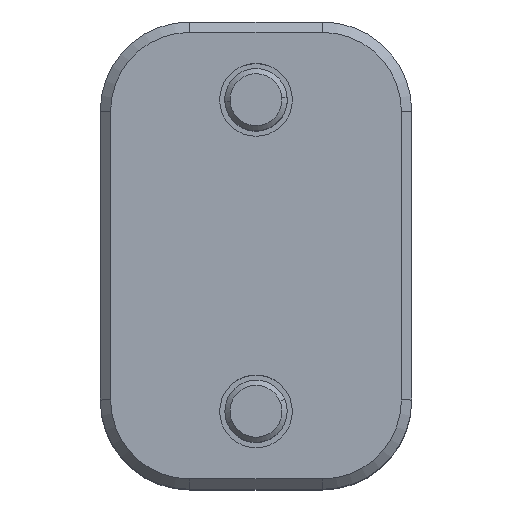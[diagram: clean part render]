
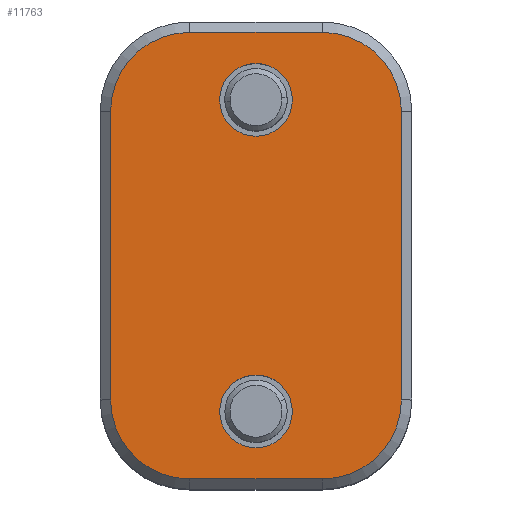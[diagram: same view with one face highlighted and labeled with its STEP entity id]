
A CAD part, top view. The second image highlights one B-rep face of the part: STEP entity #11763.
In plain terms, the highlighted planar face has unit normal (0, 0, 1).
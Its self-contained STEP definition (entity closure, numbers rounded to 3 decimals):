
#184 = EDGE_CURVE ( 'NONE', #11406, #1110, #423, .T. ) ;
#191 = VERTEX_POINT ( 'NONE', #8753 ) ;
#221 = CARTESIAN_POINT ( 'NONE',  ( 0., 18.5, 15. ) ) ;
#287 = DIRECTION ( 'NONE',  ( 0., 1., 0. ) ) ;
#336 = CARTESIAN_POINT ( 'NONE',  ( 6.4, 13.9, 15. ) ) ;
#361 = FACE_BOUND ( 'NONE', #7032, .T. ) ;
#423 = LINE ( 'NONE', #4733, #4992 ) ;
#627 = EDGE_CURVE ( 'NONE', #4389, #2264, #5620, .T. ) ;
#678 = VERTEX_POINT ( 'NONE', #7755 ) ;
#734 = VERTEX_POINT ( 'NONE', #5104 ) ;
#812 = CARTESIAN_POINT ( 'NONE',  ( 6.4, 21.5, 15. ) ) ;
#864 = VECTOR ( 'NONE', #6601, 1000. ) ;
#890 = VERTEX_POINT ( 'NONE', #3481 ) ;
#952 = CIRCLE ( 'NONE', #5401, 3.5 ) ;
#1110 = VERTEX_POINT ( 'NONE', #2953 ) ;
#1149 = ORIENTED_EDGE ( 'NONE', *, *, #3641, .T. ) ;
#1176 = CARTESIAN_POINT ( 'NONE',  ( 0., -15., 15. ) ) ;
#2170 = ORIENTED_EDGE ( 'NONE', *, *, #8442, .T. ) ;
#2196 = ORIENTED_EDGE ( 'NONE', *, *, #12401, .T. ) ;
#2264 = VERTEX_POINT ( 'NONE', #221 ) ;
#2446 = VECTOR ( 'NONE', #5033, 1000. ) ;
#2901 = AXIS2_PLACEMENT_3D ( 'NONE', #3314, #11008, #10881 ) ;
#2946 = FACE_OUTER_BOUND ( 'NONE', #12155, .T. ) ;
#2953 = CARTESIAN_POINT ( 'NONE',  ( 14., 13.9, 15. ) ) ;
#3018 = DIRECTION ( 'NONE',  ( 0., 0., 1. ) ) ;
#3064 = AXIS2_PLACEMENT_3D ( 'NONE', #8130, #10998, #4292 ) ;
#3150 = PLANE ( 'NONE',  #2901 ) ;
#3268 = ORIENTED_EDGE ( 'NONE', *, *, #10655, .T. ) ;
#3314 = CARTESIAN_POINT ( 'NONE',  ( 15., -22.5, 15. ) ) ;
#3360 = CARTESIAN_POINT ( 'NONE',  ( -6.4, 13.9, 15. ) ) ;
#3481 = CARTESIAN_POINT ( 'NONE',  ( -6.4, -21.5, 15. ) ) ;
#3641 = EDGE_CURVE ( 'NONE', #9734, #191, #952, .T. ) ;
#3654 = DIRECTION ( 'NONE',  ( 0., 1., 0. ) ) ;
#3718 = CARTESIAN_POINT ( 'NONE',  ( -14., -13.9, 15. ) ) ;
#3807 = LINE ( 'NONE', #6758, #2446 ) ;
#3865 = DIRECTION ( 'NONE',  ( 0., 1., 0. ) ) ;
#3881 = CARTESIAN_POINT ( 'NONE',  ( 0., 15., 15. ) ) ;
#3919 = DIRECTION ( 'NONE',  ( 0., 1., 0. ) ) ;
#3941 = DIRECTION ( 'NONE',  ( 0., 0., -1. ) ) ;
#3944 = CARTESIAN_POINT ( 'NONE',  ( 0., -18.5, 15. ) ) ;
#4048 = VECTOR ( 'NONE', #11218, 1000. ) ;
#4149 = AXIS2_PLACEMENT_3D ( 'NONE', #3360, #12113, #10175 ) ;
#4240 = CARTESIAN_POINT ( 'NONE',  ( 0., 11.5, 15. ) ) ;
#4292 = DIRECTION ( 'NONE',  ( -1., 0., 0. ) ) ;
#4389 = VERTEX_POINT ( 'NONE', #4240 ) ;
#4733 = CARTESIAN_POINT ( 'NONE',  ( 14., -22.5, 15. ) ) ;
#4889 = ORIENTED_EDGE ( 'NONE', *, *, #7156, .T. ) ;
#4947 = DIRECTION ( 'NONE',  ( 0., 0., -1. ) ) ;
#4957 = CARTESIAN_POINT ( 'NONE',  ( 6.4, -21.5, 15. ) ) ;
#4964 = AXIS2_PLACEMENT_3D ( 'NONE', #3881, #4947, #3919 ) ;
#4992 = VECTOR ( 'NONE', #3654, 1000. ) ;
#5020 = DIRECTION ( 'NONE',  ( 0., 1., 0. ) ) ;
#5033 = DIRECTION ( 'NONE',  ( -1., 0., 0. ) ) ;
#5104 = CARTESIAN_POINT ( 'NONE',  ( -6.4, 21.5, 15. ) ) ;
#5401 = AXIS2_PLACEMENT_3D ( 'NONE', #1176, #11896, #287 ) ;
#5620 = CIRCLE ( 'NONE', #10485, 3.5 ) ;
#5850 = CARTESIAN_POINT ( 'NONE',  ( 0., -15., 15. ) ) ;
#5858 = CIRCLE ( 'NONE', #11558, 7.6 ) ;
#5943 = CARTESIAN_POINT ( 'NONE',  ( -14., 13.9, 15. ) ) ;
#6025 = CARTESIAN_POINT ( 'NONE',  ( 6.4, -13.9, 15. ) ) ;
#6114 = ORIENTED_EDGE ( 'NONE', *, *, #627, .T. ) ;
#6208 = ORIENTED_EDGE ( 'NONE', *, *, #12267, .T. ) ;
#6218 = AXIS2_PLACEMENT_3D ( 'NONE', #6025, #3018, #6866 ) ;
#6252 = AXIS2_PLACEMENT_3D ( 'NONE', #5850, #3941, #3865 ) ;
#6298 = ORIENTED_EDGE ( 'NONE', *, *, #9471, .T. ) ;
#6352 = ORIENTED_EDGE ( 'NONE', *, *, #7096, .T. ) ;
#6601 = DIRECTION ( 'NONE',  ( 0., -1., 0. ) ) ;
#6758 = CARTESIAN_POINT ( 'NONE',  ( 15., 21.5, 15. ) ) ;
#6840 = CIRCLE ( 'NONE', #6218, 7.6 ) ;
#6866 = DIRECTION ( 'NONE',  ( -1., 0., 0. ) ) ;
#7032 = EDGE_LOOP ( 'NONE', ( #3268, #1149 ) ) ;
#7096 = EDGE_CURVE ( 'NONE', #8884, #734, #3807, .T. ) ;
#7156 = EDGE_CURVE ( 'NONE', #2264, #4389, #8681, .T. ) ;
#7733 = EDGE_LOOP ( 'NONE', ( #4889, #6114 ) ) ;
#7755 = CARTESIAN_POINT ( 'NONE',  ( -14., -13.9, 15. ) ) ;
#7920 = DIRECTION ( 'NONE',  ( 0., 0., -1. ) ) ;
#7962 = VERTEX_POINT ( 'NONE', #4957 ) ;
#8114 = ORIENTED_EDGE ( 'NONE', *, *, #9993, .T. ) ;
#8130 = CARTESIAN_POINT ( 'NONE',  ( -6.4, -13.9, 15. ) ) ;
#8353 = DIRECTION ( 'NONE',  ( -1., 0., 0. ) ) ;
#8442 = EDGE_CURVE ( 'NONE', #7962, #11406, #6840, .T. ) ;
#8638 = EDGE_CURVE ( 'NONE', #734, #10155, #9105, .T. ) ;
#8681 = CIRCLE ( 'NONE', #4964, 3.5 ) ;
#8753 = CARTESIAN_POINT ( 'NONE',  ( 0., -11.5, 15. ) ) ;
#8884 = VERTEX_POINT ( 'NONE', #812 ) ;
#9091 = LINE ( 'NONE', #3718, #864 ) ;
#9105 = CIRCLE ( 'NONE', #4149, 7.6 ) ;
#9290 = ORIENTED_EDGE ( 'NONE', *, *, #184, .T. ) ;
#9368 = DIRECTION ( 'NONE',  ( 0., 0., 1. ) ) ;
#9388 = CIRCLE ( 'NONE', #6252, 3.5 ) ;
#9399 = CARTESIAN_POINT ( 'NONE',  ( 15., -21.5, 15. ) ) ;
#9471 = EDGE_CURVE ( 'NONE', #10155, #678, #9091, .T. ) ;
#9734 = VERTEX_POINT ( 'NONE', #3944 ) ;
#9784 = CARTESIAN_POINT ( 'NONE',  ( 0., 15., 15. ) ) ;
#9940 = CIRCLE ( 'NONE', #3064, 7.6 ) ;
#9993 = EDGE_CURVE ( 'NONE', #890, #7962, #11807, .T. ) ;
#10155 = VERTEX_POINT ( 'NONE', #5943 ) ;
#10175 = DIRECTION ( 'NONE',  ( -1., 0., 0. ) ) ;
#10485 = AXIS2_PLACEMENT_3D ( 'NONE', #9784, #7920, #5020 ) ;
#10506 = ORIENTED_EDGE ( 'NONE', *, *, #8638, .T. ) ;
#10655 = EDGE_CURVE ( 'NONE', #191, #9734, #9388, .T. ) ;
#10844 = FACE_BOUND ( 'NONE', #7733, .T. ) ;
#10881 = DIRECTION ( 'NONE',  ( -1., 0., 0. ) ) ;
#10998 = DIRECTION ( 'NONE',  ( 0., 0., 1. ) ) ;
#11008 = DIRECTION ( 'NONE',  ( 0., 0., -1. ) ) ;
#11218 = DIRECTION ( 'NONE',  ( 1., 0., 0. ) ) ;
#11246 = CARTESIAN_POINT ( 'NONE',  ( 14., -13.9, 15. ) ) ;
#11406 = VERTEX_POINT ( 'NONE', #11246 ) ;
#11558 = AXIS2_PLACEMENT_3D ( 'NONE', #336, #9368, #8353 ) ;
#11763 = ADVANCED_FACE ( 'NONE', ( #2946, #10844, #361 ), #3150, .F. ) ;
#11807 = LINE ( 'NONE', #9399, #4048 ) ;
#11896 = DIRECTION ( 'NONE',  ( 0., 0., -1. ) ) ;
#12113 = DIRECTION ( 'NONE',  ( 0., 0., 1. ) ) ;
#12155 = EDGE_LOOP ( 'NONE', ( #2170, #9290, #2196, #6352, #10506, #6298, #6208, #8114 ) ) ;
#12267 = EDGE_CURVE ( 'NONE', #678, #890, #9940, .T. ) ;
#12401 = EDGE_CURVE ( 'NONE', #1110, #8884, #5858, .T. ) ;
